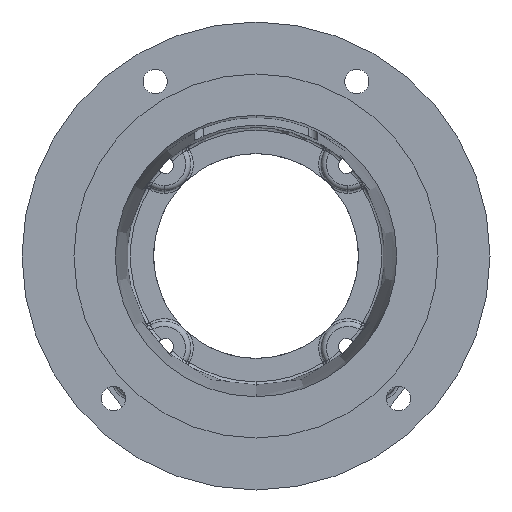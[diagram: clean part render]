
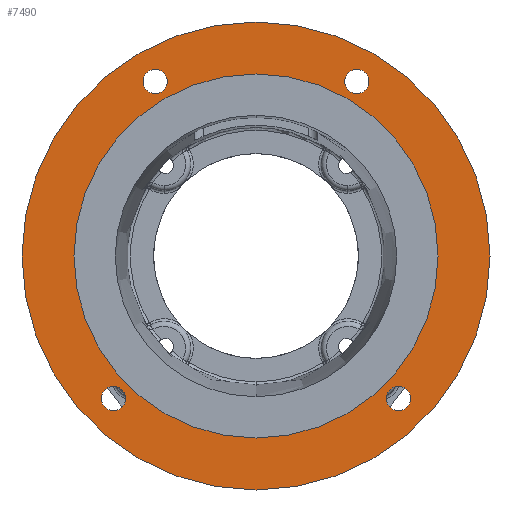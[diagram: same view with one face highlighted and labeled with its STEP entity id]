
A CAD part, front view. The second image highlights one B-rep face of the part: STEP entity #7490.
In plain terms, the highlighted planar face has unit normal (0, -1, 0).
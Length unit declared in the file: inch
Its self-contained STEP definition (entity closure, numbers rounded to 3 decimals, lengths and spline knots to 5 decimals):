
#14 = CIRCLE ( 'NONE', #5069, 0.23438 ) ;
#118 = CARTESIAN_POINT ( 'NONE',  ( -1.9375, 0., 3.59022 ) ) ;
#160 = EDGE_LOOP ( 'NONE', ( #6840, #2988 ) ) ;
#203 = CARTESIAN_POINT ( 'NONE',  ( 2.74004, 0., -2.50566 ) ) ;
#278 = CARTESIAN_POINT ( 'NONE',  ( 2.74004, 0., -2.74004 ) ) ;
#335 = DIRECTION ( 'NONE',  ( 0., 0., -1. ) ) ;
#368 = DIRECTION ( 'NONE',  ( 0., -1., 0. ) ) ;
#371 = CARTESIAN_POINT ( 'NONE',  ( 1.9375, 0., 3.35585 ) ) ;
#380 = CARTESIAN_POINT ( 'NONE',  ( -2.74004, 0., -2.97441 ) ) ;
#390 = DIRECTION ( 'NONE',  ( 0., 0., -1. ) ) ;
#600 = CIRCLE ( 'NONE', #802, 4.5 ) ;
#704 = AXIS2_PLACEMENT_3D ( 'NONE', #10993, #11092, #9586 ) ;
#802 = AXIS2_PLACEMENT_3D ( 'NONE', #11011, #8633, #1728 ) ;
#872 = VERTEX_POINT ( 'NONE', #1448 ) ;
#1073 = EDGE_CURVE ( 'NONE', #7857, #9993, #14, .T. ) ;
#1228 = CIRCLE ( 'NONE', #8330, 0.23438 ) ;
#1274 = DIRECTION ( 'NONE',  ( 0., 0., -1. ) ) ;
#1363 = PLANE ( 'NONE',  #6108 ) ;
#1382 = AXIS2_PLACEMENT_3D ( 'NONE', #11231, #11199, #11115 ) ;
#1448 = CARTESIAN_POINT ( 'NONE',  ( 0., 0., 4.5 ) ) ;
#1497 = EDGE_CURVE ( 'NONE', #2892, #5282, #4500, .T. ) ;
#1508 = CIRCLE ( 'NONE', #3811, 0.23438 ) ;
#1645 = EDGE_CURVE ( 'NONE', #9993, #7857, #8099, .T. ) ;
#1728 = DIRECTION ( 'NONE',  ( 0., 0., -1. ) ) ;
#1885 = FACE_BOUND ( 'NONE', #160, .T. ) ;
#2178 = EDGE_CURVE ( 'NONE', #4963, #9565, #1228, .T. ) ;
#2350 = ORIENTED_EDGE ( 'NONE', *, *, #2178, .F. ) ;
#2567 = EDGE_CURVE ( 'NONE', #3465, #3137, #8231, .T. ) ;
#2892 = VERTEX_POINT ( 'NONE', #118 ) ;
#2988 = ORIENTED_EDGE ( 'NONE', *, *, #1073, .F. ) ;
#3019 = EDGE_CURVE ( 'NONE', #872, #6879, #600, .T. ) ;
#3137 = VERTEX_POINT ( 'NONE', #9887 ) ;
#3320 = DIRECTION ( 'NONE',  ( 0., -1., 0. ) ) ;
#3322 = CARTESIAN_POINT ( 'NONE',  ( 1.9375, 0., 3.12147 ) ) ;
#3423 = DIRECTION ( 'NONE',  ( 0., 0., -1. ) ) ;
#3458 = DIRECTION ( 'NONE',  ( 0., -1., 0. ) ) ;
#3465 = VERTEX_POINT ( 'NONE', #203 ) ;
#3575 = CARTESIAN_POINT ( 'NONE',  ( 0., 0., 0. ) ) ;
#3811 = AXIS2_PLACEMENT_3D ( 'NONE', #10982, #10970, #10952 ) ;
#4018 = FACE_OUTER_BOUND ( 'NONE', #10616, .T. ) ;
#4027 = AXIS2_PLACEMENT_3D ( 'NONE', #4358, #4556, #8294 ) ;
#4160 = DIRECTION ( 'NONE',  ( 0., 1., 0. ) ) ;
#4336 = AXIS2_PLACEMENT_3D ( 'NONE', #4643, #4659, #4661 ) ;
#4358 = CARTESIAN_POINT ( 'NONE',  ( -1.9375, 0., 3.35585 ) ) ;
#4500 = CIRCLE ( 'NONE', #4027, 0.23438 ) ;
#4556 = DIRECTION ( 'NONE',  ( 0., -1., 0. ) ) ;
#4643 = CARTESIAN_POINT ( 'NONE',  ( 2.74004, 0., -2.74004 ) ) ;
#4659 = DIRECTION ( 'NONE',  ( 0., -1., 0. ) ) ;
#4661 = DIRECTION ( 'NONE',  ( 0., 0., -1. ) ) ;
#4963 = VERTEX_POINT ( 'NONE', #10469 ) ;
#5069 = AXIS2_PLACEMENT_3D ( 'NONE', #371, #368, #335 ) ;
#5089 = EDGE_LOOP ( 'NONE', ( #5999, #2350 ) ) ;
#5282 = VERTEX_POINT ( 'NONE', #9275 ) ;
#5345 = VERTEX_POINT ( 'NONE', #6127 ) ;
#5666 = EDGE_CURVE ( 'NONE', #6933, #5345, #9893, .T. ) ;
#5885 = DIRECTION ( 'NONE',  ( 0., -1., 0. ) ) ;
#5910 = EDGE_CURVE ( 'NONE', #6879, #872, #6328, .T. ) ;
#5937 = EDGE_CURVE ( 'NONE', #9565, #4963, #1508, .T. ) ;
#5999 = ORIENTED_EDGE ( 'NONE', *, *, #5937, .F. ) ;
#6071 = AXIS2_PLACEMENT_3D ( 'NONE', #11007, #5885, #390 ) ;
#6088 = EDGE_LOOP ( 'NONE', ( #9683, #9156 ) ) ;
#6108 = AXIS2_PLACEMENT_3D ( 'NONE', #9382, #4160, #10237 ) ;
#6127 = CARTESIAN_POINT ( 'NONE',  ( 0., 0., -3.501 ) ) ;
#6328 = CIRCLE ( 'NONE', #1382, 4.5 ) ;
#6393 = CARTESIAN_POINT ( 'NONE',  ( 0., 0., 3.501 ) ) ;
#6420 = FACE_BOUND ( 'NONE', #6088, .T. ) ;
#6634 = CIRCLE ( 'NONE', #6071, 3.501 ) ;
#6656 = ORIENTED_EDGE ( 'NONE', *, *, #11310, .F. ) ;
#6723 = DIRECTION ( 'NONE',  ( 0., -1., 0. ) ) ;
#6840 = ORIENTED_EDGE ( 'NONE', *, *, #1645, .F. ) ;
#6879 = VERTEX_POINT ( 'NONE', #7912 ) ;
#6933 = VERTEX_POINT ( 'NONE', #6393 ) ;
#7099 = EDGE_CURVE ( 'NONE', #5282, #2892, #8748, .T. ) ;
#7490 = ADVANCED_FACE ( 'NONE', ( #10932, #1885, #6420, #8721, #8967, #4018 ), #1363, .F. ) ;
#7857 = VERTEX_POINT ( 'NONE', #10052 ) ;
#7912 = CARTESIAN_POINT ( 'NONE',  ( 0., 0., -4.5 ) ) ;
#8099 = CIRCLE ( 'NONE', #704, 0.23438 ) ;
#8231 = CIRCLE ( 'NONE', #4336, 0.23438 ) ;
#8266 = CIRCLE ( 'NONE', #9761, 0.23438 ) ;
#8294 = DIRECTION ( 'NONE',  ( 0., 0., -1. ) ) ;
#8330 = AXIS2_PLACEMENT_3D ( 'NONE', #11079, #11104, #11110 ) ;
#8614 = CARTESIAN_POINT ( 'NONE',  ( -1.9375, 0., 3.35585 ) ) ;
#8633 = DIRECTION ( 'NONE',  ( 0., -1., 0. ) ) ;
#8721 = FACE_BOUND ( 'NONE', #5089, .T. ) ;
#8748 = CIRCLE ( 'NONE', #10525, 0.23438 ) ;
#8914 = ORIENTED_EDGE ( 'NONE', *, *, #5910, .T. ) ;
#8967 = FACE_BOUND ( 'NONE', #10348, .T. ) ;
#9156 = ORIENTED_EDGE ( 'NONE', *, *, #2567, .F. ) ;
#9275 = CARTESIAN_POINT ( 'NONE',  ( -1.9375, 0., 3.12147 ) ) ;
#9382 = CARTESIAN_POINT ( 'NONE',  ( -4.5, 0., 0. ) ) ;
#9427 = ORIENTED_EDGE ( 'NONE', *, *, #5666, .F. ) ;
#9432 = DIRECTION ( 'NONE',  ( 0., 0., -1. ) ) ;
#9565 = VERTEX_POINT ( 'NONE', #380 ) ;
#9586 = DIRECTION ( 'NONE',  ( 0., 0., -1. ) ) ;
#9683 = ORIENTED_EDGE ( 'NONE', *, *, #10514, .F. ) ;
#9761 = AXIS2_PLACEMENT_3D ( 'NONE', #278, #6723, #1274 ) ;
#9887 = CARTESIAN_POINT ( 'NONE',  ( 2.74004, 0., -2.97441 ) ) ;
#9893 = CIRCLE ( 'NONE', #10653, 3.501 ) ;
#9993 = VERTEX_POINT ( 'NONE', #3322 ) ;
#10052 = CARTESIAN_POINT ( 'NONE',  ( 1.9375, 0., 3.59022 ) ) ;
#10237 = DIRECTION ( 'NONE',  ( 0., 0., 1. ) ) ;
#10348 = EDGE_LOOP ( 'NONE', ( #6656, #9427 ) ) ;
#10469 = CARTESIAN_POINT ( 'NONE',  ( -2.74004, 0., -2.50566 ) ) ;
#10473 = ORIENTED_EDGE ( 'NONE', *, *, #1497, .F. ) ;
#10514 = EDGE_CURVE ( 'NONE', #3137, #3465, #8266, .T. ) ;
#10525 = AXIS2_PLACEMENT_3D ( 'NONE', #8614, #3320, #9432 ) ;
#10616 = EDGE_LOOP ( 'NONE', ( #8914, #10759 ) ) ;
#10653 = AXIS2_PLACEMENT_3D ( 'NONE', #3575, #3458, #3423 ) ;
#10759 = ORIENTED_EDGE ( 'NONE', *, *, #3019, .T. ) ;
#10877 = EDGE_LOOP ( 'NONE', ( #11037, #10473 ) ) ;
#10932 = FACE_BOUND ( 'NONE', #10877, .T. ) ;
#10952 = DIRECTION ( 'NONE',  ( 0., 0., -1. ) ) ;
#10970 = DIRECTION ( 'NONE',  ( 0., -1., 0. ) ) ;
#10982 = CARTESIAN_POINT ( 'NONE',  ( -2.74004, 0., -2.74004 ) ) ;
#10993 = CARTESIAN_POINT ( 'NONE',  ( 1.9375, 0., 3.35585 ) ) ;
#11007 = CARTESIAN_POINT ( 'NONE',  ( 0., 0., 0. ) ) ;
#11011 = CARTESIAN_POINT ( 'NONE',  ( 0., 0., 0. ) ) ;
#11037 = ORIENTED_EDGE ( 'NONE', *, *, #7099, .F. ) ;
#11079 = CARTESIAN_POINT ( 'NONE',  ( -2.74004, 0., -2.74004 ) ) ;
#11092 = DIRECTION ( 'NONE',  ( 0., -1., 0. ) ) ;
#11104 = DIRECTION ( 'NONE',  ( 0., -1., 0. ) ) ;
#11110 = DIRECTION ( 'NONE',  ( 0., 0., -1. ) ) ;
#11115 = DIRECTION ( 'NONE',  ( 0., 0., -1. ) ) ;
#11199 = DIRECTION ( 'NONE',  ( 0., -1., 0. ) ) ;
#11231 = CARTESIAN_POINT ( 'NONE',  ( 0., 0., 0. ) ) ;
#11310 = EDGE_CURVE ( 'NONE', #5345, #6933, #6634, .T. ) ;
